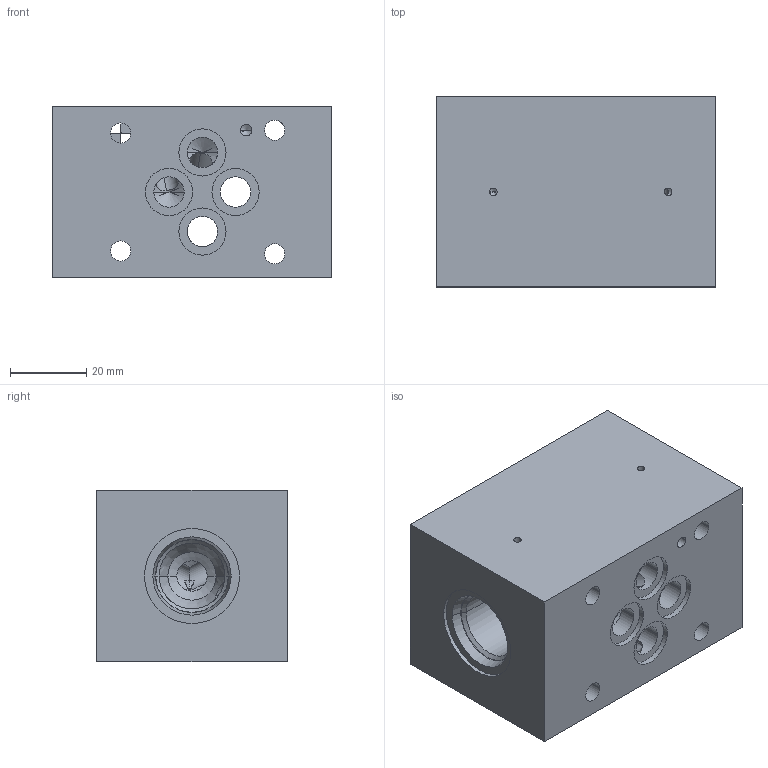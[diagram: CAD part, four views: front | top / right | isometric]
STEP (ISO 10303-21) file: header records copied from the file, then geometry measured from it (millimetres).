
FILE_DESCRIPTION((''),'2;1');
FILE_NAME('29515002','2023-10-12T',('l.soukupova'),(''),'PRO/ENGINEER BY PARAMETRIC TECHNOLOGY CORPORATION, 2015440','PRO/ENGINEER BY PARAMETRIC TECHNOLOGY CORPORATION, 2015440','');
FILE_SCHEMA(('AUTOMOTIVE_DESIGN { 1 0 10303 214 1 1 1 1 }'));
Length unit declared in the file: millimetre
Products named in the file (1): 29515002
Bounding box: 73.5 x 50 x 45 mm (x, y, z)
Volume: 144183.6 mm3; surface area: 28911.7 mm2
Topology: 1 solids, 4 shells, 108 faces, 392 edges, 345 vertices
Faces by surface type: cylinder 59, cone 35, plane 14
Entity records: 7034 total; most frequent: CARTESIAN_POINT 1858, DIRECTION 709, ORIENTED_EDGE 524, PRESENTATION_STYLE_ASSIGNMENT 473, STYLED_ITEM 425, CURVE_STYLE 422, EDGE_CURVE 268, AXIS2_PLACEMENT_3D 267
